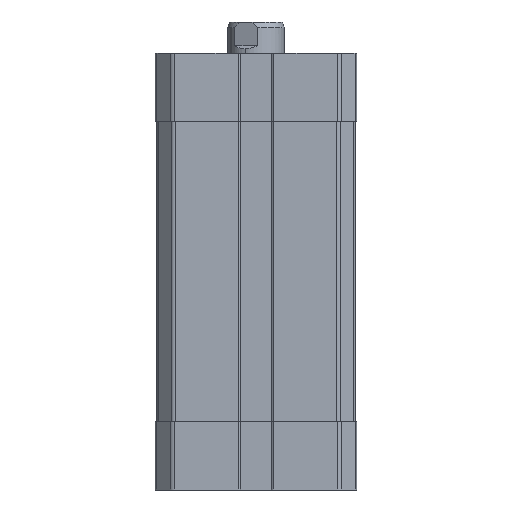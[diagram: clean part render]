
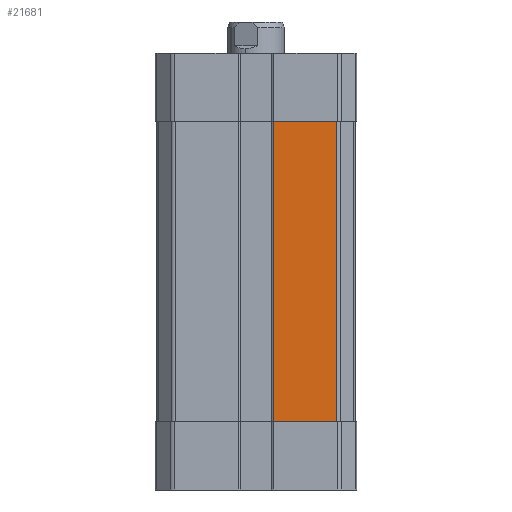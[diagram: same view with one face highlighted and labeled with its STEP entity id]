
A CAD part, front view. The second image highlights one B-rep face of the part: STEP entity #21681.
In plain terms, the highlighted planar face has unit normal (0, -1, 0).
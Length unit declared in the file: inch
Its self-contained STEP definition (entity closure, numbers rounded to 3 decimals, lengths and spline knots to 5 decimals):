
#377 = CARTESIAN_POINT ( 'NONE',  ( 0.59545, -1.03346, -1.48492 ) ) ;
#726 = FACE_OUTER_BOUND ( 'NONE', #8335, .T. ) ;
#2244 = DIRECTION ( 'NONE',  ( 1., 0., 0. ) ) ;
#4124 = VECTOR ( 'NONE', #4180, 39.37008 ) ;
#4180 = DIRECTION ( 'NONE',  ( 0., 0., -1. ) ) ;
#7245 = EDGE_CURVE ( 'NONE', #11184, #14605, #24296, .T. ) ;
#8202 = CARTESIAN_POINT ( 'NONE',  ( 0.15709, -1.03346, -1.48492 ) ) ;
#8335 = EDGE_LOOP ( 'NONE', ( #20899, #25831, #25787, #15476 ) ) ;
#8775 = DIRECTION ( 'NONE',  ( 1., 0., 0. ) ) ;
#9722 = VECTOR ( 'NONE', #8775, 39.37008 ) ;
#10454 = CARTESIAN_POINT ( 'NONE',  ( 0.15709, -1.03346, -1.48492 ) ) ;
#11084 = CARTESIAN_POINT ( 'NONE',  ( -0.65491, -1.03346, 0.6017 ) ) ;
#11184 = VERTEX_POINT ( 'NONE', #19263 ) ;
#11265 = VECTOR ( 'NONE', #24666, 39.37008 ) ;
#11824 = CARTESIAN_POINT ( 'NONE',  ( 0.59545, -1.03346, 0.6017 ) ) ;
#12812 = DIRECTION ( 'NONE',  ( 0., -1., 0. ) ) ;
#13307 = EDGE_CURVE ( 'NONE', #22545, #22143, #14313, .T. ) ;
#14313 = LINE ( 'NONE', #17139, #17955 ) ;
#14605 = VERTEX_POINT ( 'NONE', #19993 ) ;
#15476 = ORIENTED_EDGE ( 'NONE', *, *, #19067, .T. ) ;
#16573 = AXIS2_PLACEMENT_3D ( 'NONE', #16993, #12812, #19216 ) ;
#16993 = CARTESIAN_POINT ( 'NONE',  ( -0.65491, -1.03346, -1.48492 ) ) ;
#17139 = CARTESIAN_POINT ( 'NONE',  ( -0.65491, -1.03346, -1.48492 ) ) ;
#17955 = VECTOR ( 'NONE', #2244, 39.37008 ) ;
#18356 = LINE ( 'NONE', #10454, #4124 ) ;
#19067 = EDGE_CURVE ( 'NONE', #11184, #22545, #18356, .T. ) ;
#19216 = DIRECTION ( 'NONE',  ( 1., 0., 0. ) ) ;
#19263 = CARTESIAN_POINT ( 'NONE',  ( 0.15709, -1.03346, 0.6017 ) ) ;
#19993 = CARTESIAN_POINT ( 'NONE',  ( 0.59545, -1.03346, 0.6017 ) ) ;
#20899 = ORIENTED_EDGE ( 'NONE', *, *, #13307, .T. ) ;
#21681 = ADVANCED_FACE ( 'NONE', ( #726 ), #25644, .T. ) ;
#22143 = VERTEX_POINT ( 'NONE', #377 ) ;
#22381 = EDGE_CURVE ( 'NONE', #22143, #14605, #26484, .T. ) ;
#22545 = VERTEX_POINT ( 'NONE', #8202 ) ;
#24296 = LINE ( 'NONE', #11084, #9722 ) ;
#24666 = DIRECTION ( 'NONE',  ( 0., 0., 1. ) ) ;
#25644 = PLANE ( 'NONE',  #16573 ) ;
#25787 = ORIENTED_EDGE ( 'NONE', *, *, #7245, .F. ) ;
#25831 = ORIENTED_EDGE ( 'NONE', *, *, #22381, .T. ) ;
#26484 = LINE ( 'NONE', #11824, #11265 ) ;
